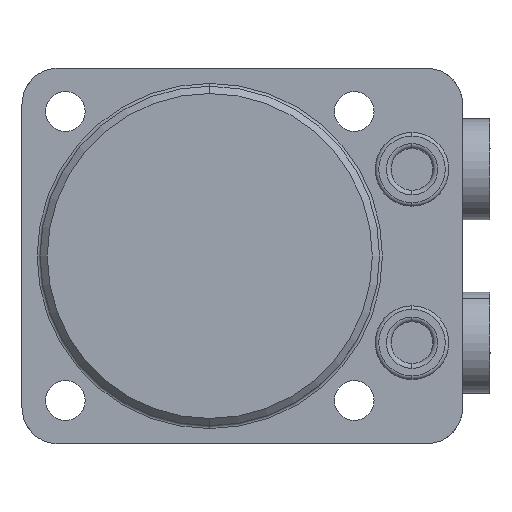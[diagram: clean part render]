
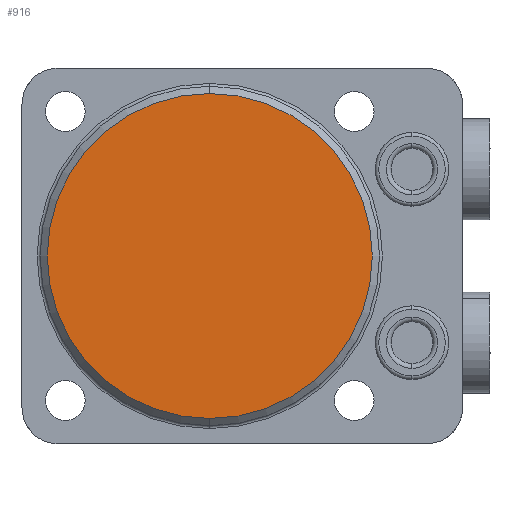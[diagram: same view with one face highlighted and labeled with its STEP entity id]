
A CAD part, front view. The second image highlights one B-rep face of the part: STEP entity #916.
In plain terms, the highlighted planar face has unit normal (0, -1, 0).
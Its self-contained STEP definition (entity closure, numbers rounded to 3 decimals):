
#233=PLANE('',#3879);
#916=ADVANCED_FACE('',(#1182),#233,.F.);
#1182=FACE_OUTER_BOUND('',#1394,.T.);
#1394=EDGE_LOOP('',(#1831,#1832));
#1831=ORIENTED_EDGE('',*,*,#3124,.T.);
#1832=ORIENTED_EDGE('',*,*,#3065,.T.);
#2733=VERTEX_POINT('',#5787);
#2734=VERTEX_POINT('',#5788);
#3065=EDGE_CURVE('',#2733,#2734,#3527,.T.);
#3124=EDGE_CURVE('',#2734,#2733,#3548,.T.);
#3527=CIRCLE('',#3846,22.5);
#3548=CIRCLE('',#3878,22.5);
#3846=AXIS2_PLACEMENT_3D('',#5786,#4515,#4516);
#3878=AXIS2_PLACEMENT_3D('',#5978,#4597,#4598);
#3879=AXIS2_PLACEMENT_3D('',#5979,#4599,#4600);
#4515=DIRECTION('',(0.,-1.,0.));
#4516=DIRECTION('',(0.,0.,1.));
#4597=DIRECTION('',(0.,-1.,0.));
#4598=DIRECTION('',(0.,0.,1.));
#4599=DIRECTION('',(0.,1.,0.));
#4600=DIRECTION('',(0.,0.,1.));
#5786=CARTESIAN_POINT('',(0.,-41.,0.));
#5787=CARTESIAN_POINT('',(0.,-41.,-22.5));
#5788=CARTESIAN_POINT('',(0.,-41.,22.5));
#5978=CARTESIAN_POINT('',(0.,-41.,0.));
#5979=CARTESIAN_POINT('',(0.,-41.,0.));
